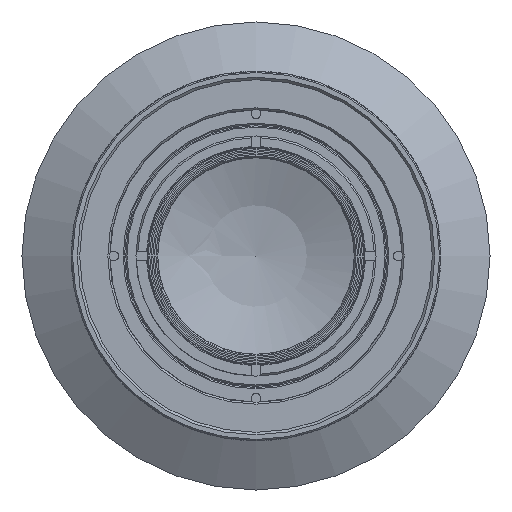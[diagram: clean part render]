
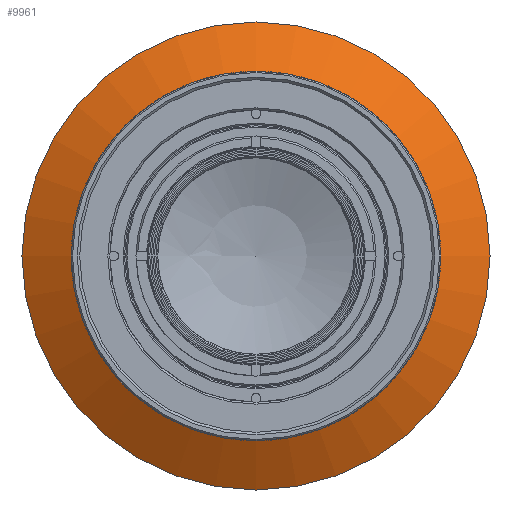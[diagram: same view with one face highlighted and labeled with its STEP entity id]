
A CAD part, left-side view. The second image highlights one B-rep face of the part: STEP entity #9961.
In plain terms, the highlighted conical face has half-angle 60.25 degrees and reference radius 38 mm.
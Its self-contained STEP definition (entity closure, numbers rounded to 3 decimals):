
#3815=CONICAL_SURFACE('',#38278,38.,60.25);
#9961=ADVANCED_FACE('',(#12228,#12229),#3815,.T.);
#12228=FACE_BOUND('',#13965,.T.);
#12229=FACE_BOUND('',#13966,.T.);
#13965=EDGE_LOOP('',(#20625));
#13966=EDGE_LOOP('',(#20626));
#20625=ORIENTED_EDGE('',*,*,#31966,.F.);
#20626=ORIENTED_EDGE('',*,*,#31965,.T.);
#27486=VERTEX_POINT('',#66086);
#27487=VERTEX_POINT('',#66089);
#31965=EDGE_CURVE('',#27486,#27486,#35421,.T.);
#31966=EDGE_CURVE('',#27487,#27487,#35422,.T.);
#35421=CIRCLE('',#38275,38.);
#35422=CIRCLE('',#38277,30.005);
#38275=AXIS2_PLACEMENT_3D('',#66085,#45357,#45358);
#38277=AXIS2_PLACEMENT_3D('',#66088,#45361,#45362);
#38278=AXIS2_PLACEMENT_3D('',#66090,#45363,#45364);
#45357=DIRECTION('',(-1.,0.,0.));
#45358=DIRECTION('',(0.,0.,1.));
#45361=DIRECTION('',(-1.,0.,0.));
#45362=DIRECTION('',(0.,0.,1.));
#45363=DIRECTION('',(1.,0.,0.));
#45364=DIRECTION('',(0.,0.,-1.));
#66085=CARTESIAN_POINT('',(44.304,0.,0.));
#66086=CARTESIAN_POINT('',(44.304,0.,38.));
#66088=CARTESIAN_POINT('',(39.735,0.,0.));
#66089=CARTESIAN_POINT('',(39.735,0.,30.005));
#66090=CARTESIAN_POINT('',(44.304,0.,0.));
